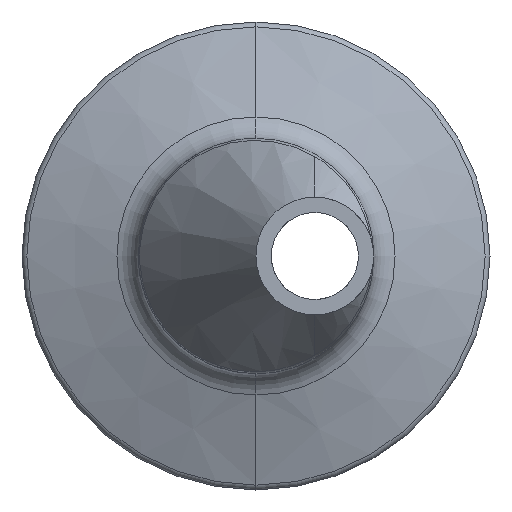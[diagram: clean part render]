
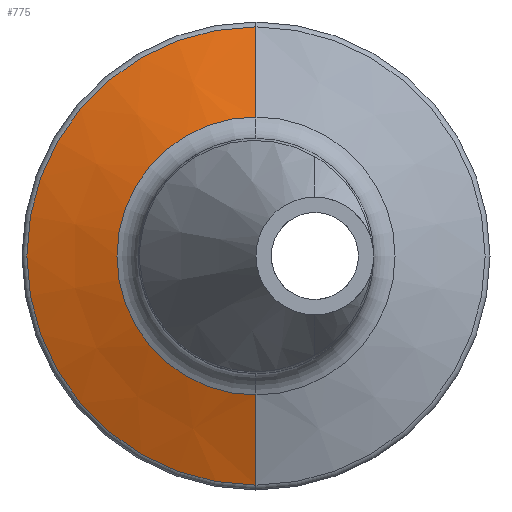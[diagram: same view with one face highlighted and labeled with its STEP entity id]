
A CAD part, left-side view. The second image highlights one B-rep face of the part: STEP entity #775.
In plain terms, the highlighted conical face has half-angle 70 degrees and reference radius 15.003 mm.
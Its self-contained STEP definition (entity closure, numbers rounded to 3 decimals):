
#51 = LINE ( 'NONE', #1581, #544 ) ;
#141 = VERTEX_POINT ( 'NONE', #962 ) ;
#179 = EDGE_LOOP ( 'NONE', ( #438, #1549, #1253, #522 ) ) ;
#186 = AXIS2_PLACEMENT_3D ( 'NONE', #740, #1896, #934 ) ;
#235 = VERTEX_POINT ( 'NONE', #372 ) ;
#372 = CARTESIAN_POINT ( 'NONE',  ( 35.058, 0., 24.724 ) ) ;
#383 = CIRCLE ( 'NONE', #186, 24.724 ) ;
#413 = AXIS2_PLACEMENT_3D ( 'NONE', #1337, #1648, #1503 ) ;
#438 = ORIENTED_EDGE ( 'NONE', *, *, #588, .F. ) ;
#454 = DIRECTION ( 'NONE',  ( 0.342, 0., -0.94 ) ) ;
#522 = ORIENTED_EDGE ( 'NONE', *, *, #877, .F. ) ;
#544 = VECTOR ( 'NONE', #1528, 1000. ) ;
#576 = LINE ( 'NONE', #1645, #1062 ) ;
#588 = EDGE_CURVE ( 'NONE', #1076, #141, #772, .T. ) ;
#740 = CARTESIAN_POINT ( 'NONE',  ( 35.058, 0., 0. ) ) ;
#772 = CIRCLE ( 'NONE', #413, 15.003 ) ;
#775 = ADVANCED_FACE ( 'NONE', ( #1317 ), #2022, .T. ) ;
#851 = VERTEX_POINT ( 'NONE', #1964 ) ;
#877 = EDGE_CURVE ( 'NONE', #141, #851, #576, .T. ) ;
#934 = DIRECTION ( 'NONE',  ( 0., 0., 1. ) ) ;
#962 = CARTESIAN_POINT ( 'NONE',  ( 31.52, 0., -15.003 ) ) ;
#1022 = CARTESIAN_POINT ( 'NONE',  ( 31.52, 0., 15.003 ) ) ;
#1062 = VECTOR ( 'NONE', #454, 1000. ) ;
#1076 = VERTEX_POINT ( 'NONE', #1022 ) ;
#1135 = CARTESIAN_POINT ( 'NONE',  ( 31.52, 0., 0. ) ) ;
#1253 = ORIENTED_EDGE ( 'NONE', *, *, #2012, .T. ) ;
#1317 = FACE_OUTER_BOUND ( 'NONE', #179, .T. ) ;
#1337 = CARTESIAN_POINT ( 'NONE',  ( 31.52, 0., 0. ) ) ;
#1503 = DIRECTION ( 'NONE',  ( 0., 0., 1. ) ) ;
#1528 = DIRECTION ( 'NONE',  ( 0.342, 0., 0.94 ) ) ;
#1549 = ORIENTED_EDGE ( 'NONE', *, *, #1565, .T. ) ;
#1565 = EDGE_CURVE ( 'NONE', #1076, #235, #51, .T. ) ;
#1581 = CARTESIAN_POINT ( 'NONE',  ( 31.52, 0., 15.003 ) ) ;
#1608 = DIRECTION ( 'NONE',  ( 0., 0., -1. ) ) ;
#1645 = CARTESIAN_POINT ( 'NONE',  ( 31.52, 0., -15.003 ) ) ;
#1648 = DIRECTION ( 'NONE',  ( -1., 0., 0. ) ) ;
#1686 = DIRECTION ( 'NONE',  ( 1., 0., 0. ) ) ;
#1883 = AXIS2_PLACEMENT_3D ( 'NONE', #1135, #1686, #1608 ) ;
#1896 = DIRECTION ( 'NONE',  ( -1., 0., 0. ) ) ;
#1964 = CARTESIAN_POINT ( 'NONE',  ( 35.058, 0., -24.724 ) ) ;
#2012 = EDGE_CURVE ( 'NONE', #235, #851, #383, .T. ) ;
#2022 = CONICAL_SURFACE ( 'NONE', #1883, 15.003, 1.222 ) ;
